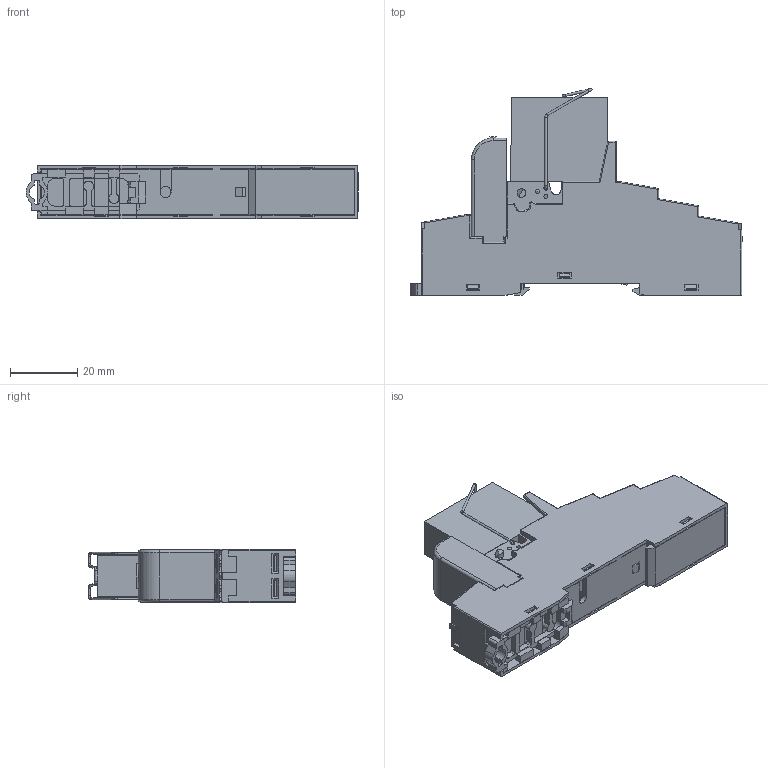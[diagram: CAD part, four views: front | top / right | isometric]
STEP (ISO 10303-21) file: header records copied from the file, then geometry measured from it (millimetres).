
FILE_DESCRIPTION(/* description */ ('Unknown'),/* implementation_level */ '2;1');
FILE_NAME(/* name */ '48P6xxxxxx0060_SMA',/* time_stamp */ '2017-01-18T14:47:12+01:00',/* author */ ('Unknown'),/* organization */ ('Unknown'),/* preprocessor_version */ 'ST-DEVELOPER v16.7',/* originating_system */ 'DEX',/* authorisation */ $);
FILE_SCHEMA (('AUTOMOTIVE_DESIGN { 1 0 10303 214 3 1 1 }','AUTOMOTIVE_DESIGN {1 0 10303 214 3 1 1}'));
Products named in the file (5): 48P6xxxxxx0060_SMA; 95.P5+095.71; 4061; None; top
Assembly tree (4 placements, depth 3):
  48P6xxxxxx0060_SMA
    95.P5+095.71
    4061
      None
    top
Bounding box: 98.89 x 61.67 x 15.8 mm (x, y, z)
Volume: 26484.2 mm3; surface area: 40363.2 mm2
Topology: 2 solids, 3 shells, 2979 faces, 8446 edges, 5439 vertices
Faces by surface type: plane 2312, cylinder 480, torus 97, cone 72, sphere 16, bspline 2
Full cylindrical faces by diameter (mm): 0.65 x11, 1.2 x4, 1.8 x1, 2.2 x8, 2.5 x2, 3 x2
Entity records: 116433 total; most frequent: CARTESIAN_POINT 17657, ORIENTED_EDGE 16758, DIRECTION 15331, EDGE_CURVE 8384, LINE 7175, VECTOR 7175, VERTEX_POINT 5424, AXIS2_PLACEMENT_3D 4078
